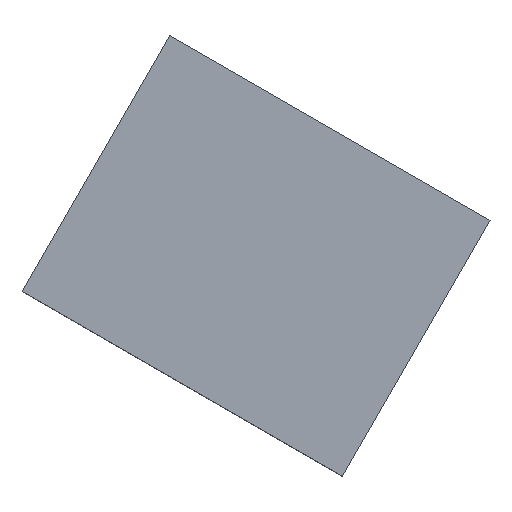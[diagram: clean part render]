
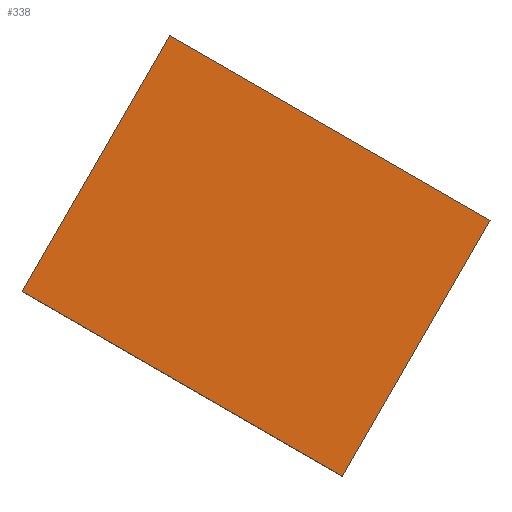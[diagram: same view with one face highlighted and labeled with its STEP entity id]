
A CAD part, top view. The second image highlights one B-rep face of the part: STEP entity #338.
In plain terms, the highlighted planar face has unit normal (0, 0, 1).
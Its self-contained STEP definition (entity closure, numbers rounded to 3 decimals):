
#24 = VERTEX_POINT('',#25);
#25 = CARTESIAN_POINT('',(153.785,-15.464,67.7));
#32 = PLANE('',#33);
#33 = AXIS2_PLACEMENT_3D('',#34,#35,#36);
#34 = CARTESIAN_POINT('',(153.785,-15.464,63.2));
#35 = DIRECTION('',(0.866,-0.5,0.));
#36 = DIRECTION('',(0.,0.,1.));
#44 = PLANE('',#45);
#45 = AXIS2_PLACEMENT_3D('',#46,#47,#48);
#46 = CARTESIAN_POINT('',(153.785,-15.464,63.2));
#47 = DIRECTION('',(0.5,0.866,0.));
#48 = DIRECTION('',(0.,0.,1.));
#85 = VERTEX_POINT('',#86);
#86 = CARTESIAN_POINT('',(157.785,-8.536,67.7));
#100 = PLANE('',#101);
#101 = AXIS2_PLACEMENT_3D('',#102,#103,#104);
#102 = CARTESIAN_POINT('',(157.785,-8.536,63.2));
#103 = DIRECTION('',(0.5,0.866,0.));
#104 = DIRECTION('',(0.,0.,1.));
#112 = EDGE_CURVE('',#24,#85,#113,.T.);
#113 = SURFACE_CURVE('',#114,(#118,#125),.PCURVE_S1.);
#114 = LINE('',#115,#116);
#115 = CARTESIAN_POINT('',(153.785,-15.464,67.7));
#116 = VECTOR('',#117,1.);
#117 = DIRECTION('',(0.5,0.866,0.));
#118 = PCURVE('',#32,#119);
#119 = DEFINITIONAL_REPRESENTATION('',(#120),#124);
#120 = LINE('',#121,#122);
#121 = CARTESIAN_POINT('',(4.5,0.));
#122 = VECTOR('',#123,1.);
#123 = DIRECTION('',(0.,-1.));
#124 = ( GEOMETRIC_REPRESENTATION_CONTEXT(2) 
PARAMETRIC_REPRESENTATION_CONTEXT() REPRESENTATION_CONTEXT('2D SPACE',''
  ) );
#125 = PCURVE('',#126,#131);
#126 = PLANE('',#127);
#127 = AXIS2_PLACEMENT_3D('',#128,#129,#130);
#128 = CARTESIAN_POINT('',(153.785,-15.464,67.7));
#129 = DIRECTION('',(0.,0.,1.));
#130 = DIRECTION('',(0.866,-0.5,0.));
#131 = DEFINITIONAL_REPRESENTATION('',(#132),#136);
#132 = LINE('',#133,#134);
#133 = CARTESIAN_POINT('',(0.,0.));
#134 = VECTOR('',#135,1.);
#135 = DIRECTION('',(0.,1.));
#136 = ( GEOMETRIC_REPRESENTATION_CONTEXT(2) 
PARAMETRIC_REPRESENTATION_CONTEXT() REPRESENTATION_CONTEXT('2D SPACE',''
  ) );
#144 = VERTEX_POINT('',#145);
#145 = CARTESIAN_POINT('',(162.445,-20.464,67.7));
#152 = PLANE('',#153);
#153 = AXIS2_PLACEMENT_3D('',#154,#155,#156);
#154 = CARTESIAN_POINT('',(162.445,-20.464,63.2));
#155 = DIRECTION('',(0.866,-0.5,0.));
#156 = DIRECTION('',(0.,0.,1.));
#195 = VERTEX_POINT('',#196);
#196 = CARTESIAN_POINT('',(166.445,-13.536,67.7));
#217 = EDGE_CURVE('',#144,#195,#218,.T.);
#218 = SURFACE_CURVE('',#219,(#223,#230),.PCURVE_S1.);
#219 = LINE('',#220,#221);
#220 = CARTESIAN_POINT('',(162.445,-20.464,67.7));
#221 = VECTOR('',#222,1.);
#222 = DIRECTION('',(0.5,0.866,0.));
#223 = PCURVE('',#152,#224);
#224 = DEFINITIONAL_REPRESENTATION('',(#225),#229);
#225 = LINE('',#226,#227);
#226 = CARTESIAN_POINT('',(4.5,0.));
#227 = VECTOR('',#228,1.);
#228 = DIRECTION('',(0.,-1.));
#229 = ( GEOMETRIC_REPRESENTATION_CONTEXT(2) 
PARAMETRIC_REPRESENTATION_CONTEXT() REPRESENTATION_CONTEXT('2D SPACE',''
  ) );
#230 = PCURVE('',#126,#231);
#231 = DEFINITIONAL_REPRESENTATION('',(#232),#236);
#232 = LINE('',#233,#234);
#233 = CARTESIAN_POINT('',(10.,0.));
#234 = VECTOR('',#235,1.);
#235 = DIRECTION('',(0.,1.));
#236 = ( GEOMETRIC_REPRESENTATION_CONTEXT(2) 
PARAMETRIC_REPRESENTATION_CONTEXT() REPRESENTATION_CONTEXT('2D SPACE',''
  ) );
#263 = EDGE_CURVE('',#24,#144,#264,.T.);
#264 = SURFACE_CURVE('',#265,(#269,#276),.PCURVE_S1.);
#265 = LINE('',#266,#267);
#266 = CARTESIAN_POINT('',(153.785,-15.464,67.7));
#267 = VECTOR('',#268,1.);
#268 = DIRECTION('',(0.866,-0.5,0.));
#269 = PCURVE('',#44,#270);
#270 = DEFINITIONAL_REPRESENTATION('',(#271),#275);
#271 = LINE('',#272,#273);
#272 = CARTESIAN_POINT('',(4.5,0.));
#273 = VECTOR('',#274,1.);
#274 = DIRECTION('',(0.,1.));
#275 = ( GEOMETRIC_REPRESENTATION_CONTEXT(2) 
PARAMETRIC_REPRESENTATION_CONTEXT() REPRESENTATION_CONTEXT('2D SPACE',''
  ) );
#276 = PCURVE('',#126,#277);
#277 = DEFINITIONAL_REPRESENTATION('',(#278),#282);
#278 = LINE('',#279,#280);
#279 = CARTESIAN_POINT('',(0.,0.));
#280 = VECTOR('',#281,1.);
#281 = DIRECTION('',(1.,0.));
#282 = ( GEOMETRIC_REPRESENTATION_CONTEXT(2) 
PARAMETRIC_REPRESENTATION_CONTEXT() REPRESENTATION_CONTEXT('2D SPACE',''
  ) );
#310 = EDGE_CURVE('',#85,#195,#311,.T.);
#311 = SURFACE_CURVE('',#312,(#316,#323),.PCURVE_S1.);
#312 = LINE('',#313,#314);
#313 = CARTESIAN_POINT('',(157.785,-8.536,67.7));
#314 = VECTOR('',#315,1.);
#315 = DIRECTION('',(0.866,-0.5,0.));
#316 = PCURVE('',#100,#317);
#317 = DEFINITIONAL_REPRESENTATION('',(#318),#322);
#318 = LINE('',#319,#320);
#319 = CARTESIAN_POINT('',(4.5,0.));
#320 = VECTOR('',#321,1.);
#321 = DIRECTION('',(0.,1.));
#322 = ( GEOMETRIC_REPRESENTATION_CONTEXT(2) 
PARAMETRIC_REPRESENTATION_CONTEXT() REPRESENTATION_CONTEXT('2D SPACE',''
  ) );
#323 = PCURVE('',#126,#324);
#324 = DEFINITIONAL_REPRESENTATION('',(#325),#329);
#325 = LINE('',#326,#327);
#326 = CARTESIAN_POINT('',(0.,8.));
#327 = VECTOR('',#328,1.);
#328 = DIRECTION('',(1.,0.));
#329 = ( GEOMETRIC_REPRESENTATION_CONTEXT(2) 
PARAMETRIC_REPRESENTATION_CONTEXT() REPRESENTATION_CONTEXT('2D SPACE',''
  ) );
#338 = ADVANCED_FACE('',(#339),#126,.T.);
#339 = FACE_BOUND('',#340,.T.);
#340 = EDGE_LOOP('',(#341,#342,#343,#344));
#341 = ORIENTED_EDGE('',*,*,#112,.F.);
#342 = ORIENTED_EDGE('',*,*,#263,.T.);
#343 = ORIENTED_EDGE('',*,*,#217,.T.);
#344 = ORIENTED_EDGE('',*,*,#310,.F.);
